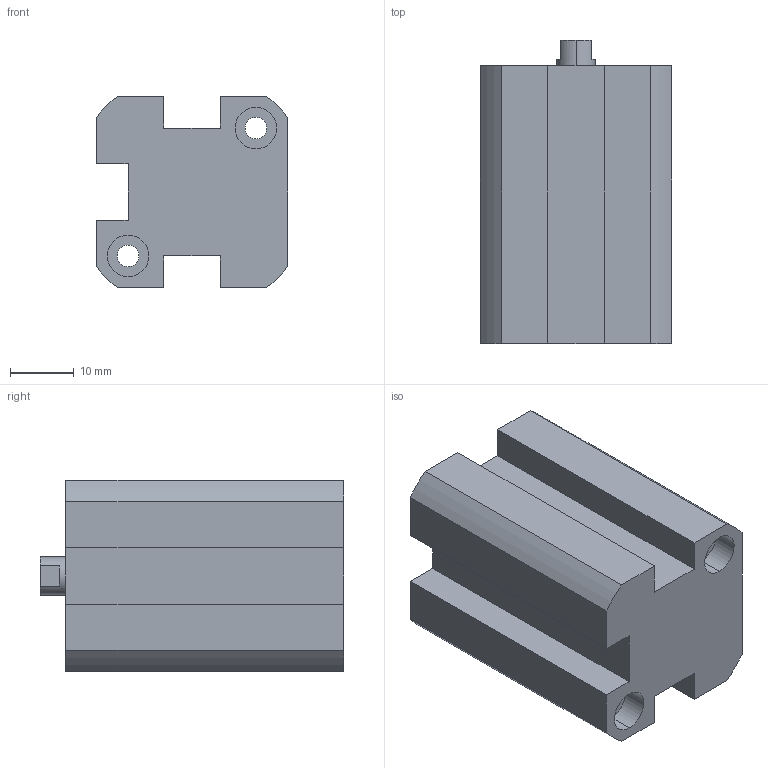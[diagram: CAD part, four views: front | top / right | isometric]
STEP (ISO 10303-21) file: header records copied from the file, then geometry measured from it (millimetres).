
FILE_DESCRIPTION (( 'STEP AP203' ), '1' );
FILE_NAME ('XG#1-16D-10.STEP', '2016-05-24T01:39:44', ( '' ), ( '' ), 'SwSTEP 2.0', 'SolidWorks 2014', '' );
FILE_SCHEMA (( 'CONFIG_CONTROL_DESIGN' ));
Length unit declared in the file: millimetre
Products named in the file (1): XG#1-16D-10
Bounding box: 30 x 47.5 x 30 mm (x, y, z)
Volume: 30932.1 mm3; surface area: 9208.6 mm2
Topology: 1 solids, 1 shells, 73 faces, 181 edges, 117 vertices
Faces by surface type: cylinder 37, plane 32, cone 4
Entity records: 2251 total; most frequent: DIRECTION 404, CARTESIAN_POINT 368, ORIENTED_EDGE 354, EDGE_CURVE 177, AXIS2_PLACEMENT_3D 153, VERTEX_POINT 117, VECTOR 98, LINE 98
